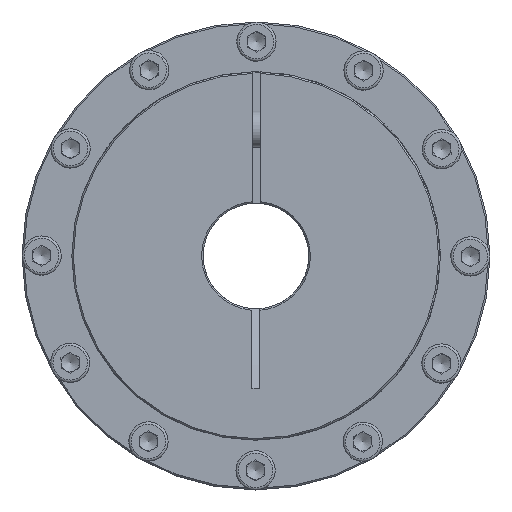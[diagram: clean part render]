
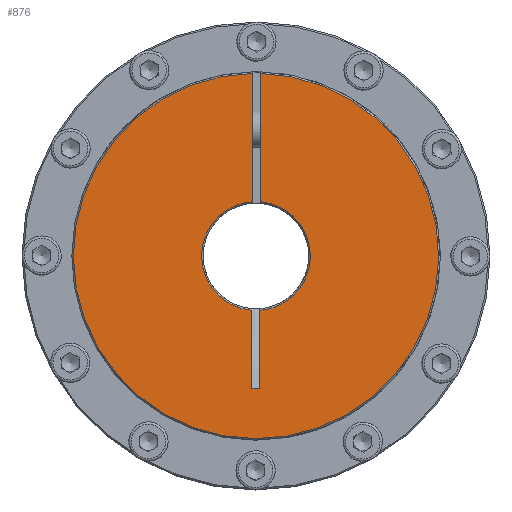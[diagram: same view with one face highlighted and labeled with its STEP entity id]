
A CAD part, left-side view. The second image highlights one B-rep face of the part: STEP entity #876.
In plain terms, the highlighted planar face has unit normal (-1, 0, 0).
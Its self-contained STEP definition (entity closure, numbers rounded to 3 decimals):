
#876 = ADVANCED_FACE( 'NONE', ( #1753 ), #1754, .F. );
#1753 = FACE_OUTER_BOUND( '', #2617, .T. );
#1754 = PLANE( '', #2618 );
#2617 = EDGE_LOOP( '', ( #3943, #3944, #3945, #3946, #3947, #3948, #3949, #3950 ) );
#2618 = AXIS2_PLACEMENT_3D( '', #3951, #3952, #3953 );
#3943 = ORIENTED_EDGE( '', *, *, #4757, .T. );
#3944 = ORIENTED_EDGE( '', *, *, #4738, .T. );
#3945 = ORIENTED_EDGE( '', *, *, #4428, .T. );
#3946 = ORIENTED_EDGE( '', *, *, #4459, .T. );
#3947 = ORIENTED_EDGE( '', *, *, #4758, .F. );
#3948 = ORIENTED_EDGE( '', *, *, #4453, .T. );
#3949 = ORIENTED_EDGE( '', *, *, #4368, .F. );
#3950 = ORIENTED_EDGE( '', *, *, #4759, .T. );
#3951 = CARTESIAN_POINT( '', ( 0., 17.5, 0. ) );
#3952 = DIRECTION( '', ( 1., 0., 0. ) );
#3953 = DIRECTION( '', ( 0., 1., 0. ) );
#4368 = EDGE_CURVE( 'NONE', #4958, #4959, #4960, .F. );
#4428 = EDGE_CURVE( 'NONE', #5050, #5051, #5052, .T. );
#4453 = EDGE_CURVE( 'NONE', #5093, #4959, #5094, .T. );
#4459 = EDGE_CURVE( 'NONE', #5051, #5102, #5103, .F. );
#4738 = EDGE_CURVE( 'NONE', #5514, #5050, #5515, .T. );
#4757 = EDGE_CURVE( 'NONE', #5537, #5514, #5538, .T. );
#4758 = EDGE_CURVE( 'NONE', #5093, #5102, #5539, .F. );
#4759 = EDGE_CURVE( 'NONE', #4958, #5537, #5540, .T. );
#4958 = VERTEX_POINT( 'NONE', #5763 );
#4959 = VERTEX_POINT( 'NONE', #5764 );
#4960 = LINE( '', #5765, #5766 );
#5050 = VERTEX_POINT( 'NONE', #5886 );
#5051 = VERTEX_POINT( 'NONE', #5887 );
#5052 = LINE( '', #5888, #5889 );
#5093 = VERTEX_POINT( 'NONE', #5965 );
#5094 = CIRCLE( '', #5966, 18. );
#5102 = VERTEX_POINT( 'NONE', #5977 );
#5103 = CIRCLE( '', #5978, 60.5 );
#5514 = VERTEX_POINT( 'NONE', #6631 );
#5515 = CIRCLE( '', #6632, 18. );
#5537 = VERTEX_POINT( 'NONE', #6657 );
#5538 = LINE( '', #6658, #6659 );
#5539 = LINE( '', #6660, #6661 );
#5540 = LINE( '', #6662, #6663 );
#5763 = CARTESIAN_POINT( '', ( 0., 43.826, -1.3 ) );
#5764 = CARTESIAN_POINT( '', ( 0., 17.953, -1.3 ) );
#5765 = CARTESIAN_POINT( '', ( 0., -13., -1.3 ) );
#5766 = VECTOR( '', #6890, 1000. );
#5886 = CARTESIAN_POINT( '', ( 0., -17.953, 1.3 ) );
#5887 = CARTESIAN_POINT( '', ( 0., -60.486, 1.3 ) );
#5888 = CARTESIAN_POINT( '', ( 0., 17.5, 1.3 ) );
#5889 = VECTOR( '', #6979, 1000. );
#5965 = CARTESIAN_POINT( '', ( 0., -17.953, -1.3 ) );
#5966 = AXIS2_PLACEMENT_3D( '', #7001, #7002, #7003 );
#5977 = CARTESIAN_POINT( '', ( 0., -60.486, -1.3 ) );
#5978 = AXIS2_PLACEMENT_3D( '', #7010, #7011, #7012 );
#6631 = CARTESIAN_POINT( '', ( 0., 17.953, 1.3 ) );
#6632 = AXIS2_PLACEMENT_3D( '', #7419, #7420, #7421 );
#6657 = CARTESIAN_POINT( '', ( 0., 43.826, 1.3 ) );
#6658 = CARTESIAN_POINT( '', ( 0., 17.5, 1.3 ) );
#6659 = VECTOR( '', #7434, 1000. );
#6660 = CARTESIAN_POINT( '', ( 0., -13., -1.3 ) );
#6661 = VECTOR( '', #7435, 1000. );
#6662 = CARTESIAN_POINT( '', ( 0., 43.826, -1.3 ) );
#6663 = VECTOR( '', #7436, 1000. );
#6890 = DIRECTION( '', ( 0., 1., 0. ) );
#6979 = DIRECTION( '', ( 0., -1., 0. ) );
#7001 = CARTESIAN_POINT( '', ( 0., 0., 0. ) );
#7002 = DIRECTION( '', ( 1., 0., 0. ) );
#7003 = DIRECTION( '', ( 0., 0., -1. ) );
#7010 = CARTESIAN_POINT( '', ( 0., 0., 0. ) );
#7011 = DIRECTION( '', ( 1., 0., 0. ) );
#7012 = DIRECTION( '', ( 0., 0., -1. ) );
#7419 = CARTESIAN_POINT( '', ( 0., 0., 0. ) );
#7420 = DIRECTION( '', ( 1., 0., 0. ) );
#7421 = DIRECTION( '', ( 0., 0., -1. ) );
#7434 = DIRECTION( '', ( 0., -1., 0. ) );
#7435 = DIRECTION( '', ( 0., 1., 0. ) );
#7436 = DIRECTION( '', ( 0., 0., 1. ) );
